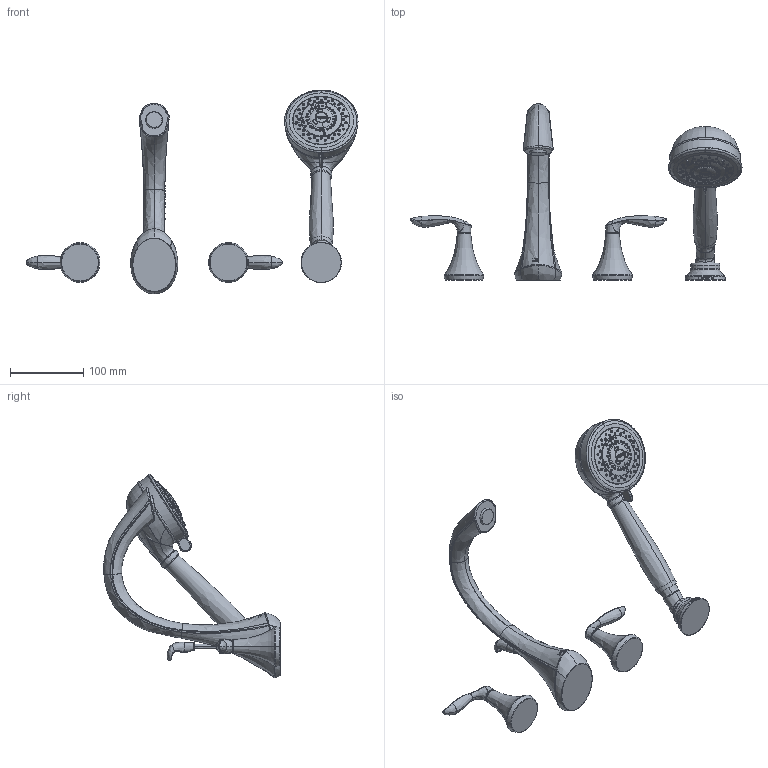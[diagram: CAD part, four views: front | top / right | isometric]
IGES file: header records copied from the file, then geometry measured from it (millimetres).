
Start section:  PTC IGES file: sku_t944.igs
Global section: file name: sku_t944.igs; native system: Pro/ENGINEER by Parametric Technology Corporation; preprocessor: 2006460; author: 9dutterb; organization: Unknown; date: 20071206.143435; units: inch
Bounding box: 454.31 x 241.62 x 279.02 mm (x, y, z)
Surface area: 153171.2 mm2 (no closed solid volume)
Topology: 0 solids, 0 shells, 612 faces, 3373 edges, 3347 vertices
Faces by surface type: revolution 359, bspline 252, extrusion 1
